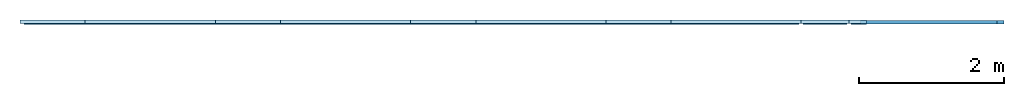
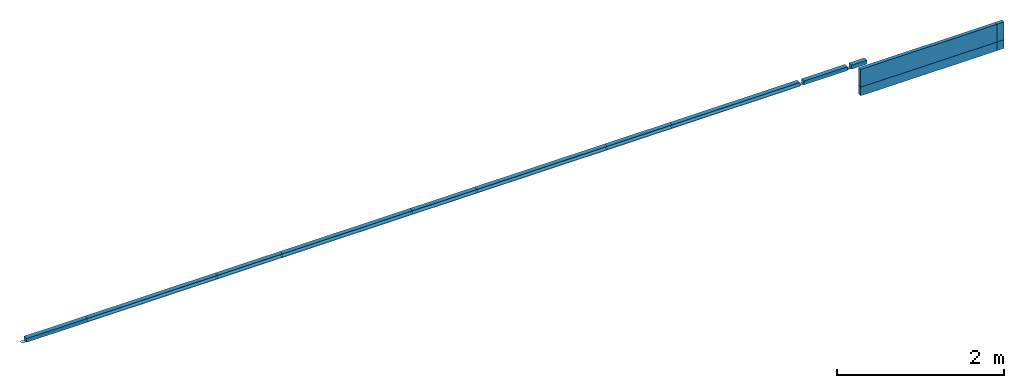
# One storey: 14 plates, 10 members, 2 elements without a shape of their own.
"""IFC2X3 building model written with IfcOpenShell, lengths in millimetres."""

from ifc_helpers import new_model, entity, si_unit, converted_unit, derived_unit, direction, frame, frame_2d, origin, origin_with_axes, origin_2d_with_axis, place, context, subcontext, project, spatial, rectangle, extrude, source, transform, mapped, material, type_object, element, aggregate, save


model = new_model("IFC2X3")

# Units and contexts
model_context = context("Model", 3, precision=0.01, world=origin(), true_north=direction((6.12303176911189e-17, 1.0)))
plan_context = context("Plan", 3, precision=1e-05, world=origin_with_axes())
body_context = subcontext(model_context, "Body", "Model", "MODEL_VIEW")
ifc_project = project(units=[converted_unit("PLANEANGLEUNIT", "DEGREE", entity("IfcPositiveLengthMeasure", 0.0174532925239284), si_unit("PLANEANGLEUNIT", "RADIAN"), dimensions=[0, 0, 0, 0, 0, 0, 0]), si_unit("AREAUNIT", "SQUARE_METRE"), si_unit("LENGTHUNIT", "METRE", prefix="MILLI"), si_unit("MASSUNIT", "GRAM", prefix="KILO"), si_unit("POWERUNIT", "WATT"), si_unit("PRESSUREUNIT", "PASCAL"), si_unit("FORCEUNIT", "NEWTON", prefix="KILO"), si_unit("ELECTRICVOLTAGEUNIT", "VOLT"), si_unit("ELECTRICCURRENTUNIT", "AMPERE"), si_unit("THERMODYNAMICTEMPERATUREUNIT", "DEGREE_CELSIUS"), si_unit("TIMEUNIT", "SECOND"), si_unit("VOLUMEUNIT", "CUBIC_METRE"), derived_unit("LINEARVELOCITYUNIT", [(si_unit("LENGTHUNIT", "METRE"), 1), (si_unit("TIMEUNIT", "SECOND"), -1)]), derived_unit("VOLUMETRICFLOWRATEUNIT", [(si_unit("VOLUMEUNIT", "CUBIC_METRE"), 1), (si_unit("TIMEUNIT", "SECOND"), -1)]), derived_unit("THERMALTRANSMITTANCEUNIT", [(si_unit("POWERUNIT", "WATT"), 1), (si_unit("THERMODYNAMICTEMPERATUREUNIT", "KELVIN"), -1), (si_unit("AREAUNIT", "SQUARE_METRE"), -1)]), derived_unit("SOUNDPRESSUREUNIT", [(si_unit("PRESSUREUNIT", "PASCAL"), 1)])], contexts=[model_context, plan_context])

# Site, building, storey
site_placement = place(None, frame((2314154.5009392, 1029894.10887124, 0.0), z_axis=(0.0, 0.0, 1.0), x_axis=(1.0, 0.0, 0.0)))
site = spatial("IfcSite", under=ifc_project, at=site_placement, Name="Default", CompositionType="ELEMENT")
building_placement = place(site_placement, origin_with_axes())
building = spatial("IfcBuilding", under=site, at=building_placement, CompositionType="ELEMENT")
storey_placement = place(building_placement, frame((0.0, 0.0, 10750.0), z_axis=(0.0, 0.0, 1.0), x_axis=(1.0, 0.0, 0.0)))
storey = spatial("IfcBuildingStorey", under=building, at=storey_placement, Name="XX - C +10,75 TA E1", CompositionType="ELEMENT", Elevation=10750.0)

# Curtain wall, members, plates
curtain_wall_type_1 = type_object("IfcCurtainWallType", Name="Curtain Wall:Værnes Innervegg 06_Glass - Please sort", PredefinedType="NOTDEFINED")
curtain_wall_1_placement = place(storey_placement, frame((0.0, 0.0, -10750.0), z_axis=(0.0, 0.0, 1.0), x_axis=(1.0, 0.0, 0.0)))
curtain_wall_1 = element("IfcCurtainWall", 1, at=curtain_wall_1_placement, inside=storey, type_object=curtain_wall_type_1, Name="Curtain Wall:Værnes Innervegg 06_Glass - Please sort", ObjectType="Curtain Wall:Værnes Innervegg 06_Glass - Please sort")
ifc_material_1 = material(Name="T2_Metal_Aluminium")
member_type_1 = type_object("IfcMemberType", Name="Rectangular Mullion:Værnes 50 x 56", PredefinedType="MULLION", material=ifc_material_1)
shared_shape_1 = source(origin(), body_context, "Body", "SweptSolid", [
    extrude(rectangle(XDim=55.9999999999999, YDim=59.9999999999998, at=frame_2d((-4.79616346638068e-14, 8.34887714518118e-14), x_axis=(1.0, 0.0))), frame((0.0, 0.0, -1800.0), z_axis=(0.0, 0.0, 1.0), x_axis=(-1.0, 0.0, 0.0)), (0.0, 0.0, 1.0), 1800.0),
])
member_1_placement = place(curtain_wall_1_placement, frame((1010.3339473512, -8837.77266022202, 18780.0), z_axis=(1.0, 0.0, 0.0), x_axis=(0.0, 0.0, 1.0)))
member_1 = element("IfcMember", 2, at=member_1_placement, type_object=member_type_1, material=ifc_material_1, Name="Rectangular Mullion:Værnes 50 x 56", ObjectType="Rectangular Mullion:Værnes 50 x 56", context=body_context, shape_type="MappedRepresentation", body=[
    mapped(shared_shape_1, transform((0.0, 0.0, 0.0), scale=1.0)),
])
member_2_placement = place(curtain_wall_1_placement, frame((3710.3339473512, -8837.77266022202, 18780.0), z_axis=(1.0, 0.0, 0.0), x_axis=(0.0, 0.0, 1.0)))
member_2 = element("IfcMember", 3, at=member_2_placement, type_object=member_type_1, material=ifc_material_1, Name="Rectangular Mullion:Værnes 50 x 56", ObjectType="Rectangular Mullion:Værnes 50 x 56", context=body_context, shape_type="MappedRepresentation", body=[
    mapped(shared_shape_1, transform((0.0, 0.0, 0.0), scale=1.0)),
])
member_3_placement = place(curtain_wall_1_placement, frame((6410.3339473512, -8837.77266022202, 18780.0), z_axis=(1.0, 0.0, 0.0), x_axis=(0.0, 0.0, 1.0)))
member_3 = element("IfcMember", 4, at=member_3_placement, type_object=member_type_1, material=ifc_material_1, Name="Rectangular Mullion:Værnes 50 x 56", ObjectType="Rectangular Mullion:Værnes 50 x 56", context=body_context, shape_type="MappedRepresentation", body=[
    mapped(shared_shape_1, transform((0.0, 0.0, 0.0), scale=1.0)),
])
member_type_2 = type_object("IfcMemberType", Name="Rectangular Mullion:Værnes 50 x 56", PredefinedType="MULLION", material=ifc_material_1)
shared_shape_2 = source(origin(), body_context, "Body", "SweptSolid", [
    extrude(rectangle(XDim=55.9999999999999, YDim=59.9999999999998, at=frame_2d((-4.79616346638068e-14, 8.34887714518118e-14), x_axis=(1.0, 0.0))), frame((0.0, 0.0, -900.0), z_axis=(0.0, 0.0, 1.0), x_axis=(-1.0, 0.0, 0.0)), (0.0, 0.0, 1.0), 899.999999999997),
])
member_4_placement = place(curtain_wall_1_placement, frame((1910.3339473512, -8837.77266022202, 18780.0), z_axis=(1.0, 0.0, 0.0), x_axis=(0.0, 0.0, 1.0)))
member_4 = element("IfcMember", 5, at=member_4_placement, type_object=member_type_2, material=ifc_material_1, Name="Rectangular Mullion:Værnes 50 x 56", ObjectType="Rectangular Mullion:Værnes 50 x 56", context=body_context, shape_type="MappedRepresentation", body=[
    mapped(shared_shape_2, transform((0.0, 0.0, 0.0), scale=1.0)),
])
member_5_placement = place(curtain_wall_1_placement, frame((4610.3339473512, -8837.77266022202, 18780.0), z_axis=(1.0, 0.0, 0.0), x_axis=(0.0, 0.0, 1.0)))
member_5 = element("IfcMember", 6, at=member_5_placement, type_object=member_type_2, material=ifc_material_1, Name="Rectangular Mullion:Værnes 50 x 56", ObjectType="Rectangular Mullion:Værnes 50 x 56", context=body_context, shape_type="MappedRepresentation", body=[
    mapped(shared_shape_2, transform((0.0, 0.0, 0.0), scale=1.0)),
])
member_6_placement = place(curtain_wall_1_placement, frame((7310.3339473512, -8837.77266022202, 18780.0), z_axis=(1.0, 0.0, 0.0), x_axis=(0.0, 0.0, 1.0)))
member_6 = element("IfcMember", 7, at=member_6_placement, type_object=member_type_2, material=ifc_material_1, Name="Rectangular Mullion:Værnes 50 x 56", ObjectType="Rectangular Mullion:Værnes 50 x 56", context=body_context, shape_type="MappedRepresentation", body=[
    mapped(shared_shape_2, transform((0.0, 0.0, 0.0), scale=1.0)),
])
member_type_3 = type_object("IfcMemberType", Name="Rectangular Mullion:Værnes 50 x 56", PredefinedType="MULLION", material=ifc_material_1)
shared_shape_3 = source(origin(), body_context, "Body", "SweptSolid", [
    extrude(rectangle(XDim=55.9999999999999, YDim=59.9999999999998, at=frame_2d((-4.79616346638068e-14, 8.34887714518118e-14), x_axis=(1.0, 0.0))), frame((0.0, 0.0, -1768.66666666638), z_axis=(0.0, 0.0, 1.0), x_axis=(-1.0, 0.0, 0.0)), (0.0, 0.0, 1.0), 1768.66666666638),
])
member_7_placement = place(curtain_wall_1_placement, frame((9079.00061401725, -8837.77266022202, 18780.0), z_axis=(1.0, 0.0, 0.0), x_axis=(0.0, 0.0, 1.0)))
member_7 = element("IfcMember", 8, at=member_7_placement, type_object=member_type_3, material=ifc_material_1, Name="Rectangular Mullion:Værnes 50 x 56", ObjectType="Rectangular Mullion:Værnes 50 x 56", context=body_context, shape_type="MappedRepresentation", body=[
    mapped(shared_shape_3, transform((0.0, 0.0, 0.0), scale=1.0)),
])
member_type_4 = type_object("IfcMemberType", Name="Rectangular Mullion:Værnes 50 x 56", PredefinedType="MULLION", material=ifc_material_1)
shared_shape_4 = source(origin(), body_context, "Body", "SweptSolid", [
    extrude(rectangle(XDim=55.9999999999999, YDim=59.9999999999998, at=frame_2d((-4.79616346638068e-14, 8.34887714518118e-14), x_axis=(1.0, 0.0))), frame((0.0, 0.0, -604.0), z_axis=(0.0, 0.0, 1.0), x_axis=(-1.0, 0.0, 0.0)), (0.0, 0.0, 1.0), 604.000000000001),
])
member_8_placement = place(curtain_wall_1_placement, frame((9739.00061401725, -8837.77266022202, 18780.0), z_axis=(1.0, 0.0, 0.0), x_axis=(0.0, 0.0, 1.0)))
member_8 = element("IfcMember", 9, at=member_8_placement, type_object=member_type_4, material=ifc_material_1, Name="Rectangular Mullion:Værnes 50 x 56", ObjectType="Rectangular Mullion:Værnes 50 x 56", context=body_context, shape_type="MappedRepresentation", body=[
    mapped(shared_shape_4, transform((0.0, 0.0, 0.0), scale=1.0)),
])
member_type_5 = type_object("IfcMemberType", Name="Rectangular Mullion:Værnes 50 x 56", PredefinedType="MULLION", material=ifc_material_1)
shared_shape_5 = source(origin(), body_context, "Body", "SweptSolid", [
    extrude(rectangle(XDim=55.9999999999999, YDim=59.9999999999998, at=frame_2d((-4.79616346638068e-14, 8.34887714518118e-14), x_axis=(1.0, 0.0))), frame((0.0, 0.0, -215.333333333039), z_axis=(0.0, 0.0, 1.0), x_axis=(-1.0, 0.0, 0.0)), (0.0, 0.0, 1.0), 215.33333333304),
])
member_9_placement = place(curtain_wall_1_placement, frame((10010.3339473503, -8837.77266022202, 18780.0), z_axis=(1.0, 0.0, 0.0), x_axis=(0.0, 0.0, 1.0)))
member_9 = element("IfcMember", 10, at=member_9_placement, type_object=member_type_5, material=ifc_material_1, Name="Rectangular Mullion:Værnes 50 x 56", ObjectType="Rectangular Mullion:Værnes 50 x 56", context=body_context, shape_type="MappedRepresentation", body=[
    mapped(shared_shape_5, transform((0.0, 0.0, 0.0), scale=1.0)),
])
member_type_6 = type_object("IfcMemberType", Name="Rectangular Mullion:Værnes 50 x 56", PredefinedType="MULLION", material=ifc_material_1)
shared_shape_6 = source(origin(), body_context, "Body", "SweptSolid", [
    extrude(rectangle(XDim=55.9999999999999, YDim=59.9999999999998, at=frame_2d((-4.79616346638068e-14, 8.34887714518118e-14), x_axis=(1.0, 0.0))), frame((0.0, 0.0, -844.0), z_axis=(0.0, 0.0, 1.0), x_axis=(-1.0, 0.0, 0.0)), (0.0, 0.0, 1.0), 844.000000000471),
])
member_10_placement = place(curtain_wall_1_placement, frame((-789.666052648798, -8837.77266022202, 18780.0), z_axis=(1.0, 0.0, 0.0), x_axis=(0.0, 0.0, 1.0)))
member_10 = element("IfcMember", 11, at=member_10_placement, type_object=member_type_6, material=ifc_material_1, Name="Rectangular Mullion:Værnes 50 x 56", ObjectType="Rectangular Mullion:Værnes 50 x 56", context=body_context, shape_type="MappedRepresentation", body=[
    mapped(shared_shape_6, transform((0.0, 0.0, 0.0), scale=1.0)),
])
ifc_material_2 = material(Name="Glass 01_jb")
plate_type_1 = type_object("IfcPlateType", Name="System Panel:Glazed-generic", PredefinedType="CURTAIN_PANEL", material=ifc_material_2)
shared_shape_7 = source(origin(), body_context, "Body", "SweptSolid", [
    extrude(rectangle(XDim=48.0, YDim=900.000000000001, at=origin_2d_with_axis()), frame((0.0, 8.5, 0.0), z_axis=(0.0, 0.0, 1.0), x_axis=(0.0, 1.0, 0.0)), (0.0, 0.0, 1.0), 2.00000000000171),
])
plate_1_placement = place(curtain_wall_1_placement, frame((-1239.66605264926, -8837.77266022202, 18750.0), z_axis=(0.0, 0.0, 1.0), x_axis=(1.0, 0.0, 0.0)))
plate_1 = element("IfcPlate", 12, at=plate_1_placement, type_object=plate_type_1, material=ifc_material_2, Name="System Panel:Glazed-generic", ObjectType="System Panel:Glazed-generic", context=body_context, shape_type="MappedRepresentation", body=[
    mapped(shared_shape_7, transform((0.0, 0.0, 0.0), scale=1.0)),
])
plate_2_placement = place(curtain_wall_1_placement, frame((1460.3339473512, -8837.77266022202, 18750.0), z_axis=(0.0, 0.0, 1.0), x_axis=(1.0, 0.0, 0.0)))
plate_2 = element("IfcPlate", 13, at=plate_2_placement, type_object=plate_type_1, material=ifc_material_2, Name="System Panel:Glazed-generic", ObjectType="System Panel:Glazed-generic", context=body_context, shape_type="MappedRepresentation", body=[
    mapped(shared_shape_7, transform((0.0, 0.0, 0.0), scale=1.0)),
])
plate_3_placement = place(curtain_wall_1_placement, frame((4160.3339473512, -8837.77266022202, 18750.0), z_axis=(0.0, 0.0, 1.0), x_axis=(1.0, 0.0, 0.0)))
plate_3 = element("IfcPlate", 14, at=plate_3_placement, type_object=plate_type_1, material=ifc_material_2, Name="System Panel:Glazed-generic", ObjectType="System Panel:Glazed-generic", context=body_context, shape_type="MappedRepresentation", body=[
    mapped(shared_shape_7, transform((0.0, 0.0, 0.0), scale=1.0)),
])
plate_4_placement = place(curtain_wall_1_placement, frame((6860.3339473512, -8837.77266022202, 18750.0), z_axis=(0.0, 0.0, 1.0), x_axis=(1.0, 0.0, 0.0)))
plate_4 = element("IfcPlate", 15, at=plate_4_placement, type_object=plate_type_1, material=ifc_material_2, Name="System Panel:Glazed-generic", ObjectType="System Panel:Glazed-generic", context=body_context, shape_type="MappedRepresentation", body=[
    mapped(shared_shape_7, transform((0.0, 0.0, 0.0), scale=1.0)),
])
plate_type_2 = type_object("IfcPlateType", Name="System Panel:Glazed-generic", PredefinedType="CURTAIN_PANEL", material=ifc_material_2)
shared_shape_8 = source(origin(), body_context, "Body", "SweptSolid", [
    extrude(rectangle(XDim=48.0, YDim=1800.0, at=origin_2d_with_axis()), frame((0.0, 8.5, 0.0), z_axis=(0.0, 0.0, 1.0), x_axis=(0.0, 1.0, 0.0)), (0.0, 0.0, 1.0), 2.00000000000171),
])
plate_5_placement = place(curtain_wall_1_placement, frame((110.333947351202, -8837.77266022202, 18750.0), z_axis=(0.0, 0.0, 1.0), x_axis=(1.0, 0.0, 0.0)))
plate_5 = element("IfcPlate", 16, at=plate_5_placement, type_object=plate_type_2, material=ifc_material_2, Name="System Panel:Glazed-generic", ObjectType="System Panel:Glazed-generic", context=body_context, shape_type="MappedRepresentation", body=[
    mapped(shared_shape_8, transform((0.0, 0.0, 0.0), scale=1.0)),
])
plate_6_placement = place(curtain_wall_1_placement, frame((2810.3339473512, -8837.77266022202, 18750.0), z_axis=(0.0, 0.0, 1.0), x_axis=(1.0, 0.0, 0.0)))
plate_6 = element("IfcPlate", 17, at=plate_6_placement, type_object=plate_type_2, material=ifc_material_2, Name="System Panel:Glazed-generic", ObjectType="System Panel:Glazed-generic", context=body_context, shape_type="MappedRepresentation", body=[
    mapped(shared_shape_8, transform((0.0, 0.0, 0.0), scale=1.0)),
])
plate_7_placement = place(curtain_wall_1_placement, frame((5510.3339473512, -8837.77266022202, 18750.0), z_axis=(0.0, 0.0, 1.0), x_axis=(1.0, 0.0, 0.0)))
plate_7 = element("IfcPlate", 18, at=plate_7_placement, type_object=plate_type_2, material=ifc_material_2, Name="System Panel:Glazed-generic", ObjectType="System Panel:Glazed-generic", context=body_context, shape_type="MappedRepresentation", body=[
    mapped(shared_shape_8, transform((0.0, 0.0, 0.0), scale=1.0)),
])
plate_type_3 = type_object("IfcPlateType", Name="System Panel:Glazed-generic", PredefinedType="CURTAIN_PANEL", material=ifc_material_2)
shared_shape_9 = source(origin(), body_context, "Body", "SweptSolid", [
    extrude(rectangle(XDim=48.0, YDim=1796.66666666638, at=origin_2d_with_axis()), frame((0.0, 8.50000000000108, 0.0), z_axis=(0.0, 0.0, 1.0), x_axis=(0.0, 1.0, 0.0)), (0.0, 0.0, 1.0), 2.00000000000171),
])
plate_8_placement = place(curtain_wall_1_placement, frame((8208.66728068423, -8837.77266022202, 18750.0), z_axis=(0.0, 0.0, 1.0), x_axis=(1.0, 0.0, 0.0)))
plate_8 = element("IfcPlate", 19, at=plate_8_placement, type_object=plate_type_3, material=ifc_material_2, Name="System Panel:Glazed-generic", ObjectType="System Panel:Glazed-generic", context=body_context, shape_type="MappedRepresentation", body=[
    mapped(shared_shape_9, transform((0.0, 0.0, 0.0), scale=1.0)),
])
plate_type_4 = type_object("IfcPlateType", Name="System Panel:Glazed-generic", PredefinedType="CURTAIN_PANEL", material=ifc_material_2)
shared_shape_10 = source(origin(), body_context, "Body", "SweptSolid", [
    extrude(rectangle(XDim=48.0, YDim=660.0, at=origin_2d_with_axis()), frame((0.0, 8.5, 0.0), z_axis=(0.0, 0.0, 1.0), x_axis=(0.0, 1.0, 0.0)), (0.0, 0.0, 1.0), 2.00000000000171),
])
plate_9_placement = place(curtain_wall_1_placement, frame((9437.00061401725, -8837.77266022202, 18750.0), z_axis=(0.0, 0.0, 1.0), x_axis=(1.0, 0.0, 0.0)))
plate_9 = element("IfcPlate", 20, at=plate_9_placement, type_object=plate_type_4, material=ifc_material_2, Name="System Panel:Glazed-generic", ObjectType="System Panel:Glazed-generic", context=body_context, shape_type="MappedRepresentation", body=[
    mapped(shared_shape_10, transform((0.0, 0.0, 0.0), scale=1.0)),
])
plate_type_5 = type_object("IfcPlateType", Name="System Panel:Glazed-generic", PredefinedType="CURTAIN_PANEL", material=ifc_material_2)
shared_shape_11 = source(origin(), body_context, "Body", "SweptSolid", [
    extrude(rectangle(XDim=48.0, YDim=243.33333333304, at=origin_2d_with_axis()), frame((0.0, 8.50000000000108, 0.0), z_axis=(0.0, 0.0, 1.0), x_axis=(0.0, 1.0, 0.0)), (0.0, 0.0, 1.0), 2.00000000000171),
])
plate_10_placement = place(curtain_wall_1_placement, frame((9888.66728068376, -8837.77266022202, 18750.0), z_axis=(0.0, 0.0, 1.0), x_axis=(1.0, 0.0, 0.0)))
plate_10 = element("IfcPlate", 21, at=plate_10_placement, type_object=plate_type_5, material=ifc_material_2, Name="System Panel:Glazed-generic", ObjectType="System Panel:Glazed-generic", context=body_context, shape_type="MappedRepresentation", body=[
    mapped(shared_shape_11, transform((0.0, 0.0, 0.0), scale=1.0)),
])
aggregate(curtain_wall_1, [member_1, member_4, member_2, member_5, member_3, member_6, member_7, member_8, member_9, member_10, plate_1, plate_5, plate_2, plate_6, plate_3, plate_7, plate_4, plate_8, plate_9, plate_10])

# Curtain wall, plates
curtain_wall_type_2 = type_object("IfcCurtainWallType", Name="Curtain Wall:V_Existing Curtain Wall", PredefinedType="NOTDEFINED")
curtain_wall_2_placement = place(storey_placement, frame((0.0, 0.0, -10750.0), z_axis=(0.0, 0.0, 1.0), x_axis=(1.0, 0.0, 0.0)))
curtain_wall_2 = element("IfcCurtainWall", 22, at=curtain_wall_2_placement, inside=storey, type_object=curtain_wall_type_2, Name="Curtain Wall:V_Existing Curtain Wall", ObjectType="Curtain Wall:V_Existing Curtain Wall")
plate_type_6 = type_object("IfcPlateType", Name="System Panel:Glazed-generic", PredefinedType="CURTAIN_PANEL", material=ifc_material_2)
shared_shape_12 = source(origin(), body_context, "Body", "SweptSolid", [
    extrude(rectangle(XDim=48.0, YDim=1884.9999999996, at=origin_2d_with_axis()), frame((0.0, -8.5, 0.0), z_axis=(0.0, 0.0, 1.0), x_axis=(0.0, 1.0, 0.0)), (0.0, 0.0, 1.0), 127.904995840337),
])
plate_11_placement = place(curtain_wall_2_placement, frame((10867.8339473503, -8829.76181460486, 18312.0950041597), z_axis=(0.0, 0.0, 1.0), x_axis=(1.0, 0.0, 0.0)))
plate_11 = element("IfcPlate", 23, at=plate_11_placement, type_object=plate_type_6, material=ifc_material_2, Name="System Panel:Glazed-generic", ObjectType="System Panel:Glazed-generic", context=body_context, shape_type="MappedRepresentation", body=[
    mapped(shared_shape_12, transform((0.0, 0.0, 0.0), scale=1.0)),
])
plate_type_7 = type_object("IfcPlateType", Name="System Panel:Glazed-generic", PredefinedType="CURTAIN_PANEL", material=ifc_material_2)
shared_shape_13 = source(origin(), body_context, "Body", "SweptSolid", [
    extrude(rectangle(XDim=48.0, YDim=100.000000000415, at=origin_2d_with_axis()), frame((0.0, -8.5, 0.0), z_axis=(0.0, 0.0, 1.0), x_axis=(0.0, 1.0, 0.0)), (0.0, 0.0, 1.0), 127.904995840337),
])
plate_12_placement = place(curtain_wall_2_placement, frame((11860.3339473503, -8829.76181460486, 18312.0950041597), z_axis=(0.0, 0.0, 1.0), x_axis=(1.0, 0.0, 0.0)))
plate_12 = element("IfcPlate", 24, at=plate_12_placement, type_object=plate_type_7, material=ifc_material_2, Name="System Panel:Glazed-generic", ObjectType="System Panel:Glazed-generic", context=body_context, shape_type="MappedRepresentation", body=[
    mapped(shared_shape_13, transform((0.0, 0.0, 0.0), scale=1.0)),
])
plate_type_8 = type_object("IfcPlateType", Name="System Panel:Glazed-generic", PredefinedType="CURTAIN_PANEL", material=ifc_material_2)
shared_shape_14 = source(origin(), body_context, "Body", "SweptSolid", [
    extrude(rectangle(XDim=48.0, YDim=1884.9999999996, at=origin_2d_with_axis()), frame((0.0, -8.5, 0.0), z_axis=(0.0, 0.0, 1.0), x_axis=(0.0, 1.0, 0.0)), (0.0, 0.0, 1.0), 259.999999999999),
])
plate_13_placement = place(curtain_wall_2_placement, frame((10867.8339473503, -8829.76181460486, 18440.0), z_axis=(0.0, 0.0, 1.0), x_axis=(1.0, 0.0, 0.0)))
plate_13 = element("IfcPlate", 25, at=plate_13_placement, type_object=plate_type_8, material=ifc_material_2, Name="System Panel:Glazed-generic", ObjectType="System Panel:Glazed-generic", context=body_context, shape_type="MappedRepresentation", body=[
    mapped(shared_shape_14, transform((0.0, 0.0, 0.0), scale=1.0)),
])
plate_type_9 = type_object("IfcPlateType", Name="System Panel:Glazed-generic", PredefinedType="CURTAIN_PANEL", material=ifc_material_2)
shared_shape_15 = source(origin(), body_context, "Body", "SweptSolid", [
    extrude(rectangle(XDim=48.0, YDim=100.000000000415, at=origin_2d_with_axis()), frame((0.0, -8.5, 0.0), z_axis=(0.0, 0.0, 1.0), x_axis=(0.0, 1.0, 0.0)), (0.0, 0.0, 1.0), 259.999999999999),
])
plate_14_placement = place(curtain_wall_2_placement, frame((11860.3339473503, -8829.76181460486, 18440.0), z_axis=(0.0, 0.0, 1.0), x_axis=(1.0, 0.0, 0.0)))
plate_14 = element("IfcPlate", 26, at=plate_14_placement, type_object=plate_type_9, material=ifc_material_2, Name="System Panel:Glazed-generic", ObjectType="System Panel:Glazed-generic", context=body_context, shape_type="MappedRepresentation", body=[
    mapped(shared_shape_15, transform((0.0, 0.0, 0.0), scale=1.0)),
])
aggregate(curtain_wall_2, [plate_11, plate_12, plate_13, plate_14])

save(model, "model.ifc")
